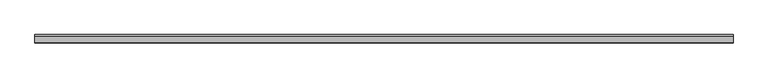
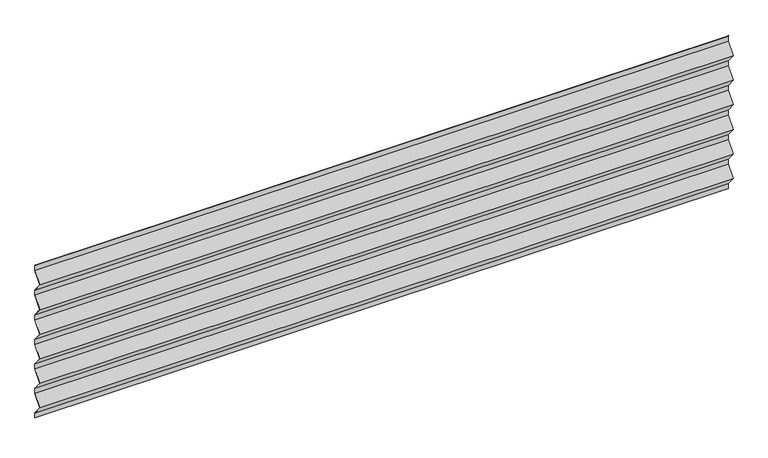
"""IFC4 building model written with IfcOpenShell, lengths in millimetres: plate geometry, HIANSA - H20.F09.008-CHAPA PERFILADA FACHADA HORIZONTAL - MT53MA6 - Panel de Muro Cortina : -."""

import ifcopenshell
import ifcopenshell.guid

model = None  # the IFC model being written
_history = None  # IfcOwnerHistory: only IFC2X3 demands one
_inside = {}  # id of a spatial element -> (the spatial element, [elements in it])
_under = {}  # id of a project, library or spatial element -> (it, [spatial elements below it])
_declared = {}  # id of a project -> (the project, [libraries it declares])
_typed = {}  # id of a type object -> (the type object, [elements of that type])
_made_of = {}  # id of a material, layer set ... -> (it, [elements and type objects made of it])


def new_model(schema):
    """Start an empty IFC model of exactly this schema.

    Asked for "IFC4X3", IfcOpenShell would pick the latest addendum, in which some entities
    have other attributes; the version numbers below select the first issue.
    IFC2X3 requires an IfcOwnerHistory on every rooted entity: one is made here for all.
    """
    global model, _history
    if schema == "IFC4X3":
        model = ifcopenshell.file(schema_version=(4, 3, 0, 0))
    else:
        model = ifcopenshell.file(schema=schema)
    _inside.clear()
    _under.clear()
    _declared.clear()
    _typed.clear()
    _made_of.clear()
    _history = None
    if model.schema == "IFC2X3":
        org = make("IfcOrganization", Name="unknown")
        user = make(
            "IfcPersonAndOrganization",
            ThePerson=make("IfcPerson", FamilyName="unknown"),
            TheOrganization=org,
        )
        app = make(
            "IfcApplication",
            ApplicationDeveloper=org,
            Version="unknown",
            ApplicationFullName="unknown",
            ApplicationIdentifier="unknown",
        )
        _history = make(
            "IfcOwnerHistory",
            OwningUser=user,
            OwningApplication=app,
            ChangeAction="ADDED",
            CreationDate=0,
        )
    return model


def make(cls, **values):
    """One entity of the class cls with the attributes given. An attribute that is None is left unset."""
    return model.create_entity(
        cls, **{name: value for name, value in values.items() if value is not None}
    )


def rooted(cls, **values):
    """An entity with a GlobalId (a new one), such as an element, a storey or a relation."""
    return make(cls, GlobalId=ifcopenshell.guid.new(), OwnerHistory=_history, **values)


def si_unit(unit_type, name, prefix=None):
    """IfcSIUnit, for example si_unit("LENGTHUNIT", "METRE", prefix="MILLI")."""
    return make("IfcSIUnit", UnitType=unit_type, Prefix=prefix, Name=name)


def assignment(units):
    """IfcUnitAssignment: the units of a project."""
    return None if units is None else make("IfcUnitAssignment", Units=units)


def point(xyz):
    """IfcCartesianPoint."""
    return None if xyz is None else make("IfcCartesianPoint", Coordinates=xyz)


def direction(xyz):
    """IfcDirection."""
    return None if xyz is None else make("IfcDirection", DirectionRatios=xyz)


def frame(location, z_axis=None, x_axis=None):
    """IfcAxis2Placement3D, a coordinate frame: its origin and axes. An axis left out is left unset."""
    return make(
        "IfcAxis2Placement3D",
        Location=point(location),
        Axis=direction(z_axis),
        RefDirection=direction(x_axis),
    )


def origin():
    """The frame at (0, 0, 0) with its axes left unset."""
    return frame((0.0, 0.0, 0.0))


def place(relative_to, where):
    """IfcLocalPlacement: puts the frame where relative to a parent placement (None: the world)."""
    return make(
        "IfcLocalPlacement", PlacementRelTo=relative_to, RelativePlacement=where
    )


def context(
    kind, dimensions, precision=None, world=None, true_north=None, identifier=None
):
    """IfcGeometricRepresentationContext, for example the 3D "Model" context."""
    return make(
        "IfcGeometricRepresentationContext",
        ContextIdentifier=identifier,
        ContextType=kind,
        CoordinateSpaceDimension=dimensions,
        Precision=precision,
        WorldCoordinateSystem=world,
        TrueNorth=true_north,
    )


def project(units=None, contexts=None):
    """IfcProject with its units and contexts."""
    return rooted(
        "IfcProject",
        Name="project",
        RepresentationContexts=contexts,
        UnitsInContext=assignment(units),
    )


def spatial(cls, under=None, at=None, **own):
    """A site, building, storey or space (cls), placed at a placement, below another one or the project."""
    s = rooted(cls, ObjectPlacement=at, **own)
    if under is not None:
        _under.setdefault(under.id(), (under, []))[1].append(s)
    return s


def polyline(points):
    """IfcPolyline through the points."""
    return make("IfcPolyline", Points=[point(p) for p in points])


def outline(outer, holes=None, kind="AREA"):
    """IfcArbitraryClosedProfileDef: a profile drawn as a closed curve; with holes, ...WithVoids."""
    if holes is None:
        return make("IfcArbitraryClosedProfileDef", ProfileType=kind, OuterCurve=outer)
    return make(
        "IfcArbitraryProfileDefWithVoids",
        ProfileType=kind,
        OuterCurve=outer,
        InnerCurves=holes,
    )


def extrude(swept, where, along, depth):
    """IfcExtrudedAreaSolid: the profile swept, set in the frame where, extruded along a direction by depth."""
    return make(
        "IfcExtrudedAreaSolid",
        SweptArea=swept,
        Position=where,
        ExtrudedDirection=direction(along),
        Depth=depth,
    )


def shape(context_of_items, identifier, shape_type, items):
    """IfcShapeRepresentation: the items that make up one representation, for example the "Body"."""
    return make(
        "IfcShapeRepresentation",
        ContextOfItems=context_of_items,
        RepresentationIdentifier=identifier,
        RepresentationType=shape_type,
        Items=items,
    )


def source(mapping_origin, context_of_items, identifier, shape_type, items):
    """IfcRepresentationMap: a shape defined once, which mapped items show again and again."""
    return make(
        "IfcRepresentationMap",
        MappingOrigin=mapping_origin,
        MappedRepresentation=shape(context_of_items, identifier, shape_type, items),
    )


def transform(
    local_origin,
    x_axis=None,
    y_axis=None,
    z_axis=None,
    scale=None,
    scale2=None,
    scale3=None,
    uniform=True,
):
    """IfcCartesianTransformationOperator3D, or its non-uniform kind. x_axis, y_axis, z_axis: its Axis1, 2, 3."""
    if uniform:
        return make(
            "IfcCartesianTransformationOperator3D",
            Axis1=direction(x_axis),
            Axis2=direction(y_axis),
            LocalOrigin=point(local_origin),
            Scale=scale,
            Axis3=direction(z_axis),
        )
    return make(
        "IfcCartesianTransformationOperator3DnonUniform",
        Axis1=direction(x_axis),
        Axis2=direction(y_axis),
        LocalOrigin=point(local_origin),
        Scale=scale,
        Axis3=direction(z_axis),
        Scale2=scale2,
        Scale3=scale3,
    )


def mapped(mapping_source, mapping_target):
    """IfcMappedItem: shows the shape of a source again, moved by a transform."""
    return make(
        "IfcMappedItem", MappingSource=mapping_source, MappingTarget=mapping_target
    )


def made_of(thing, what):
    """Note that an element or type object is made of a material, layer set ...; save() writes the relation."""
    if what is not None:
        _made_of.setdefault(what.id(), (what, []))[1].append(thing)
    return thing


def element(
    cls,
    number,
    at=None,
    inside=None,
    cuts=None,
    type_object=None,
    material=None,
    context=None,
    identifier="Body",
    shape_type=None,
    held_by="IfcProductDefinitionShape",
    body=None,
    shapes=None,
    **own,
):
    """One element of the class cls, such as IfcWall. Its Tag is "e" and its number.

    at: its placement. inside: the storey or other place that contains it. cuts: it is an
    opening in that element (IfcRelVoidsElement). A single representation is given by context,
    identifier, shape_type and body (its items); several are given by shapes. held_by: the class
    of the entity that holds the representations. save() writes the other relations.
    """
    e = rooted(cls, Tag="e%d" % number, ObjectPlacement=at, **own)
    if body is not None:
        shapes = [shape(context, identifier, shape_type, body)]
    if shapes is not None:
        e.Representation = make(held_by, Representations=shapes)
    if inside is not None:
        _inside.setdefault(inside.id(), (inside, []))[1].append(e)
    if cuts is not None:
        rooted(
            "IfcRelVoidsElement", RelatingBuildingElement=cuts, RelatedOpeningElement=e
        )
    if type_object is not None:
        _typed.setdefault(type_object.id(), (type_object, []))[1].append(e)
    return made_of(e, material)


def aggregate(whole, parts):
    """IfcRelAggregates: a whole, such as a stair, and the parts it consists of."""
    return rooted("IfcRelAggregates", RelatingObject=whole, RelatedObjects=parts)


def save(model, path):
    """Write the relations noted so far, then the file.

    IfcRelAggregates (storeys below a building ...), IfcRelContainedInSpatialStructure (elements
    in a storey), IfcRelDefinesByType, IfcRelAssociatesMaterial and IfcRelDeclares: one each for
    every whole, place, type object, material and project.
    """
    for whole, parts in _under.values():
        aggregate(whole, parts)
    for where, things in _inside.values():
        rooted(
            "IfcRelContainedInSpatialStructure",
            RelatedElements=things,
            RelatingStructure=where,
        )
    for kind, things in _typed.values():
        rooted("IfcRelDefinesByType", RelatedObjects=things, RelatingType=kind)
    for what, things in _made_of.values():
        rooted("IfcRelAssociatesMaterial", RelatedObjects=things, RelatingMaterial=what)
    for by, libraries in _declared.values():
        rooted("IfcRelDeclares", RelatingContext=by, RelatedDefinitions=libraries)
    model.write(path)


def plate_e49f8d99(model_context):
    return source(origin(), model_context, "Body", "SweptSolid", [
        extrude(outline(polyline([(0.0, 1006.6385641), (0.0, 973.0843078), (-51.7433424, 907.3614359), (0.0, 841.6385641), (0.0, 808.0843078), (-51.7433424, 742.3614359), (0.0, 676.6385641), (0.0, 643.0843078), (-51.7433424, 577.3614359), (0.0, 511.6385641), (0.0, 478.0843078), (-51.7433424, 412.3614359), (0.0, 346.6385641), (0.0, 313.0843078), (-51.7433424, 247.3614359), (0.0, 181.6385641), (0.0, 148.0843078), (-51.7433424, 82.3614359), (0.0, 16.6385641), (0.0, -16.6385641), (-0.8, -16.6385641), (-0.8, 16.3614359), (-52.7615242, 82.3614359), (-0.8, 148.3614359), (-0.8, 181.3614359), (-52.7615242, 247.3614359), (-0.8, 313.3614359), (-0.8, 346.3614359), (-52.7615242, 412.3614359), (-0.8, 478.3614359), (-0.8, 511.3614359), (-52.7615242, 577.3614359), (-0.8, 643.3614359), (-0.8, 676.3614359), (-52.7615242, 742.3614359), (-0.8, 808.3614359), (-0.8, 841.3614359), (-52.7615242, 907.3614359), (-0.8, 973.3614359), (-0.8, 1006.3614359), (-7.6044853, 1015.0042931), (-6.9759139, 1015.4991647), (0.0, 1006.6385641)])), frame((-2200.0, 0.0, 0.0), z_axis=(1.0, 0.0, 0.0), x_axis=(0.0, 1.0, 0.0)), (0.0, 0.0, 1.0), 4400.0),
    ])


if __name__ == "__main__":
    model = new_model("IFC4")
    model_context = context("Model", 3, world=origin())
    ifc_project = project(units=[si_unit("LENGTHUNIT", "METRE", prefix="MILLI")], contexts=[model_context])
    site = spatial("IfcSite", under=ifc_project)
    building = spatial("IfcBuilding", under=site)
    placement = place(None, origin())
    plate_shape = plate_e49f8d99(model_context)
    element("IfcPlate", 1, ObjectType="HIANSA - H20.F09.008-CHAPA PERFILADA FACHADA HORIZONTAL - MT53MA6 - Panel de Muro Cortina : -", at=placement, inside=building, context=model_context, shape_type="MappedRepresentation", body=[
        mapped(plate_shape, transform((0.0, 0.0, 0.0), x_axis=(1.0, 0.0, 0.0), y_axis=(0.0, 1.0, 0.0), z_axis=(0.0, 0.0, 1.0))),
    ])
    save(model, "model.ifc")
